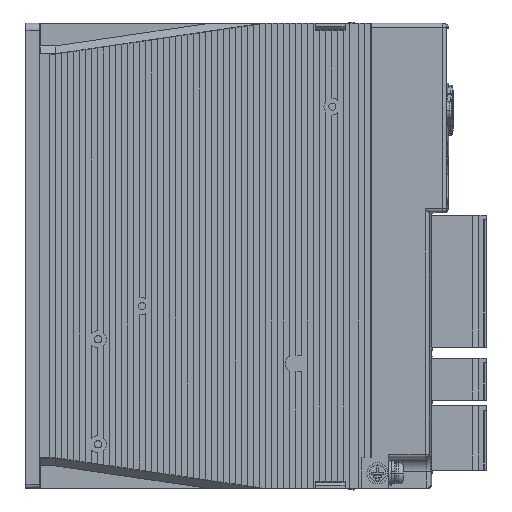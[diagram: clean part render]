
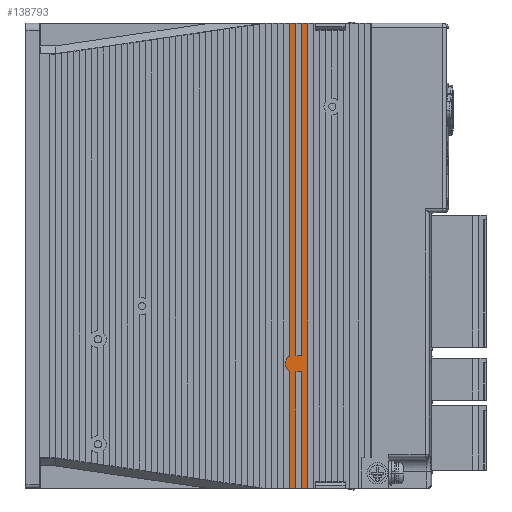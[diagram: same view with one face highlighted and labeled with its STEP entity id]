
A CAD part, top view. The second image highlights one B-rep face of the part: STEP entity #138793.
In plain terms, the highlighted planar face has unit normal (0, 0, 1).
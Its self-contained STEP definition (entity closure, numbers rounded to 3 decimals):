
#3776 = VECTOR ( 'NONE', #6381, 1000. ) ;
#3780 = VECTOR ( 'NONE', #6393, 1000. ) ;
#3873 = VECTOR ( 'NONE', #6672, 1000. ) ;
#3877 = VECTOR ( 'NONE', #6684, 1000. ) ;
#4743 = CARTESIAN_POINT ( 'NONE',  ( 94., -77.5, 23.5 ) ) ;
#4744 = CARTESIAN_POINT ( 'NONE',  ( 92., -77.5, 23.5 ) ) ;
#4747 = CARTESIAN_POINT ( 'NONE',  ( 90., -77.5, 23.5 ) ) ;
#4748 = CARTESIAN_POINT ( 'NONE',  ( 88., -77.5, 23.5 ) ) ;
#6379 = LINE ( 'NONE', #6380, #3776 ) ;
#6380 = CARTESIAN_POINT ( 'NONE',  ( 94., -77.5, 23.5 ) ) ;
#6381 = DIRECTION ( 'NONE',  ( -1., 0., 0. ) ) ;
#6391 = LINE ( 'NONE', #6392, #3780 ) ;
#6392 = CARTESIAN_POINT ( 'NONE',  ( 90., -77.5, 23.5 ) ) ;
#6393 = DIRECTION ( 'NONE',  ( -1., 0., 0. ) ) ;
#6670 = LINE ( 'NONE', #6671, #3873 ) ;
#6671 = CARTESIAN_POINT ( 'NONE',  ( 90., 77.5, 23.5 ) ) ;
#6672 = DIRECTION ( 'NONE',  ( 1., 0., 0. ) ) ;
#6682 = LINE ( 'NONE', #6683, #3877 ) ;
#6683 = CARTESIAN_POINT ( 'NONE',  ( 94., 77.5, 23.5 ) ) ;
#6684 = DIRECTION ( 'NONE',  ( 1., 0., 0. ) ) ;
#7105 = CARTESIAN_POINT ( 'NONE',  ( 88., 77.5, 23.5 ) ) ;
#7106 = CARTESIAN_POINT ( 'NONE',  ( 90., 77.5, 23.5 ) ) ;
#7109 = CARTESIAN_POINT ( 'NONE',  ( 92., 77.5, 23.5 ) ) ;
#7110 = CARTESIAN_POINT ( 'NONE',  ( 94., 77.5, 23.5 ) ) ;
#35040 = CIRCLE ( 'NONE', #38697, 2.8 ) ;
#36529 = CARTESIAN_POINT ( 'NONE',  ( 90., -33.239, 23.5 ) ) ;
#36531 = CARTESIAN_POINT ( 'NONE',  ( 92., -33.239, 23.5 ) ) ;
#36534 = CARTESIAN_POINT ( 'NONE',  ( 90., -38.661, 23.5 ) ) ;
#36536 = CARTESIAN_POINT ( 'NONE',  ( 92., -38.661, 23.5 ) ) ;
#36537 = CARTESIAN_POINT ( 'NONE',  ( 88., -33.47, 23.5 ) ) ;
#38681 = VECTOR ( 'NONE', #41151, 1000. ) ;
#38697 = AXIS2_PLACEMENT_3D ( 'NONE', #41037, #41173, #41174 ) ;
#38703 = VECTOR ( 'NONE', #41172, 1000. ) ;
#39798 = FACE_OUTER_BOUND ( 'NONE', #190511, .T. ) ;
#39802 = AXIS2_PLACEMENT_3D ( 'NONE', #42631, #42632, #42633 ) ;
#40343 = VECTOR ( 'NONE', #43375, 1000. ) ;
#40346 = VECTOR ( 'NONE', #43384, 1000. ) ;
#40348 = VECTOR ( 'NONE', #43390, 1000. ) ;
#40364 = VECTOR ( 'NONE', #43438, 1000. ) ;
#40366 = VECTOR ( 'NONE', #43444, 1000. ) ;
#40368 = VECTOR ( 'NONE', #43450, 1000. ) ;
#40369 = VECTOR ( 'NONE', #43453, 1000. ) ;
#41037 = CARTESIAN_POINT ( 'NONE',  ( 89.3, -35.95, 23.5 ) ) ;
#41149 = LINE ( 'NONE', #41150, #38681 ) ;
#41150 = CARTESIAN_POINT ( 'NONE',  ( 88.6, -33.239, 23.5 ) ) ;
#41151 = DIRECTION ( 'NONE',  ( -1., 0., 0. ) ) ;
#41170 = LINE ( 'NONE', #41171, #38703 ) ;
#41171 = CARTESIAN_POINT ( 'NONE',  ( 88.6, -38.661, 23.5 ) ) ;
#41172 = DIRECTION ( 'NONE',  ( 1., 0., 0. ) ) ;
#41173 = DIRECTION ( 'NONE',  ( 0., 0., 1. ) ) ;
#41174 = DIRECTION ( 'NONE',  ( 1., 0., 0. ) ) ;
#42630 = PLANE ( 'NONE',  #39802 ) ;
#42631 = CARTESIAN_POINT ( 'NONE',  ( 90., -80.662, 23.5 ) ) ;
#42632 = DIRECTION ( 'NONE',  ( 0., 0., 1. ) ) ;
#42633 = DIRECTION ( 'NONE',  ( 1., 0., 0. ) ) ;
#43373 = LINE ( 'NONE', #43374, #40343 ) ;
#43374 = CARTESIAN_POINT ( 'NONE',  ( 88., -80.662, 23.5 ) ) ;
#43375 = DIRECTION ( 'NONE',  ( 0., 1., 0. ) ) ;
#43382 = LINE ( 'NONE', #43383, #40346 ) ;
#43383 = CARTESIAN_POINT ( 'NONE',  ( 90., -80.662, 23.5 ) ) ;
#43384 = DIRECTION ( 'NONE',  ( 0., 1., 0. ) ) ;
#43388 = LINE ( 'NONE', #43389, #40348 ) ;
#43389 = CARTESIAN_POINT ( 'NONE',  ( 92., -80.662, 23.5 ) ) ;
#43390 = DIRECTION ( 'NONE',  ( 0., 1., 0. ) ) ;
#43436 = LINE ( 'NONE', #43437, #40364 ) ;
#43437 = CARTESIAN_POINT ( 'NONE',  ( 94., -80.662, 23.5 ) ) ;
#43438 = DIRECTION ( 'NONE',  ( 0., 1., 0. ) ) ;
#43442 = LINE ( 'NONE', #43443, #40366 ) ;
#43443 = CARTESIAN_POINT ( 'NONE',  ( 92., -80.662, 23.5 ) ) ;
#43444 = DIRECTION ( 'NONE',  ( 0., 1., 0. ) ) ;
#43448 = LINE ( 'NONE', #43449, #40368 ) ;
#43449 = CARTESIAN_POINT ( 'NONE',  ( 90., -80.662, 23.5 ) ) ;
#43450 = DIRECTION ( 'NONE',  ( 0., 1., 0. ) ) ;
#43451 = LINE ( 'NONE', #43452, #40369 ) ;
#43452 = CARTESIAN_POINT ( 'NONE',  ( 88., -80.662, 23.5 ) ) ;
#43453 = DIRECTION ( 'NONE',  ( 0., 1., 0. ) ) ;
#74173 = VERTEX_POINT ( 'NONE', #171973 ) ;
#74174 = VERTEX_POINT ( 'NONE', #171974 ) ;
#93764 = VERTEX_POINT ( 'NONE', #4743 ) ;
#93765 = VERTEX_POINT ( 'NONE', #4744 ) ;
#93769 = VERTEX_POINT ( 'NONE', #4747 ) ;
#93770 = VERTEX_POINT ( 'NONE', #4748 ) ;
#96112 = EDGE_CURVE ( 'NONE', #93764, #93765, #6379, .T. ) ;
#96119 = EDGE_CURVE ( 'NONE', #93769, #93770, #6391, .T. ) ;
#96286 = EDGE_CURVE ( 'NONE', #96611, #96613, #6670, .T. ) ;
#96292 = EDGE_CURVE ( 'NONE', #96619, #96621, #6682, .T. ) ;
#96611 = VERTEX_POINT ( 'NONE', #7105 ) ;
#96613 = VERTEX_POINT ( 'NONE', #7106 ) ;
#96619 = VERTEX_POINT ( 'NONE', #7109 ) ;
#96621 = VERTEX_POINT ( 'NONE', #7110 ) ;
#123057 = CIRCLE ( 'NONE', #135541, 2.8 ) ;
#132742 = VERTEX_POINT ( 'NONE', #36529 ) ;
#132745 = VERTEX_POINT ( 'NONE', #36531 ) ;
#132749 = VERTEX_POINT ( 'NONE', #36534 ) ;
#132751 = VERTEX_POINT ( 'NONE', #36536 ) ;
#132752 = VERTEX_POINT ( 'NONE', #36537 ) ;
#135541 = AXIS2_PLACEMENT_3D ( 'NONE', #141423, #141424, #141425 ) ;
#138461 = EDGE_CURVE ( 'NONE', #132745, #132742, #41149, .T. ) ;
#138468 = EDGE_CURVE ( 'NONE', #132749, #132751, #41170, .T. ) ;
#138469 = EDGE_CURVE ( 'NONE', #132752, #74173, #35040, .T. ) ;
#138793 = ADVANCED_FACE ( 'NONE', ( #39798 ), #42630, .T. ) ;
#139491 = ORIENTED_EDGE ( 'NONE', *, *, #96112, .F. ) ;
#139492 = ORIENTED_EDGE ( 'NONE', *, *, #140150, .T. ) ;
#139493 = ORIENTED_EDGE ( 'NONE', *, *, #138468, .T. ) ;
#139494 = ORIENTED_EDGE ( 'NONE', *, *, #140152, .F. ) ;
#139495 = ORIENTED_EDGE ( 'NONE', *, *, #140168, .T. ) ;
#139496 = ORIENTED_EDGE ( 'NONE', *, *, #96292, .F. ) ;
#139497 = ORIENTED_EDGE ( 'NONE', *, *, #140170, .F. ) ;
#139498 = ORIENTED_EDGE ( 'NONE', *, *, #138461, .T. ) ;
#139499 = ORIENTED_EDGE ( 'NONE', *, *, #140172, .T. ) ;
#139500 = ORIENTED_EDGE ( 'NONE', *, *, #96286, .F. ) ;
#139501 = ORIENTED_EDGE ( 'NONE', *, *, #140173, .F. ) ;
#139502 = ORIENTED_EDGE ( 'NONE', *, *, #140147, .F. ) ;
#139503 = ORIENTED_EDGE ( 'NONE', *, *, #138469, .T. ) ;
#139504 = ORIENTED_EDGE ( 'NONE', *, *, #177542, .T. ) ;
#139505 = ORIENTED_EDGE ( 'NONE', *, *, #96119, .F. ) ;
#140147 = EDGE_CURVE ( 'NONE', #93770, #74174, #43373, .T. ) ;
#140150 = EDGE_CURVE ( 'NONE', #93769, #132749, #43382, .T. ) ;
#140152 = EDGE_CURVE ( 'NONE', #93765, #132751, #43388, .T. ) ;
#140168 = EDGE_CURVE ( 'NONE', #93764, #96621, #43436, .T. ) ;
#140170 = EDGE_CURVE ( 'NONE', #132745, #96619, #43442, .T. ) ;
#140172 = EDGE_CURVE ( 'NONE', #132742, #96613, #43448, .T. ) ;
#140173 = EDGE_CURVE ( 'NONE', #132752, #96611, #43451, .T. ) ;
#141423 = CARTESIAN_POINT ( 'NONE',  ( 89.3, -35.95, 23.5 ) ) ;
#141424 = DIRECTION ( 'NONE',  ( 0., 0., 1. ) ) ;
#141425 = DIRECTION ( 'NONE',  ( 1., 0., 0. ) ) ;
#171973 = CARTESIAN_POINT ( 'NONE',  ( 86.5, -35.95, 23.5 ) ) ;
#171974 = CARTESIAN_POINT ( 'NONE',  ( 88., -38.43, 23.5 ) ) ;
#177542 = EDGE_CURVE ( 'NONE', #74173, #74174, #123057, .T. ) ;
#190511 = EDGE_LOOP ( 'NONE', ( #139492, #139493, #139494, #139491, #139495, #139496, #139497, #139498, #139499, #139500, #139501, #139503, #139504, #139502, #139505 ) ) ;
